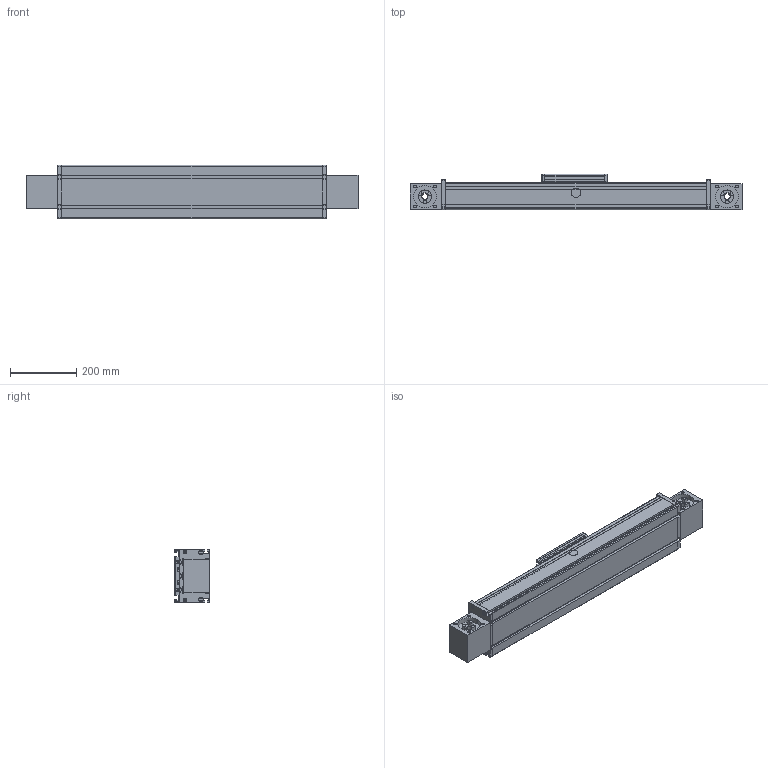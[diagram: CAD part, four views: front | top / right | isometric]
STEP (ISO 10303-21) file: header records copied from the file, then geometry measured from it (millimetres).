
FILE_DESCRIPTION (( 'STEP AP214' ), '1' );
FILE_NAME ('DLZ-160.STEP', '2016-01-14T09:57:25', ( 'admin' ), ( '' ), 'SwSTEP 2.0', 'SolidWorks 2015', '' );
FILE_SCHEMA (( 'AUTOMOTIVE_DESIGN' ));
Length unit declared in the file: millimetre
Products named in the file (6): Kopie von Bahr-DLZ-DLZ-160  1 0  0 0  0 7  940_DLZ Carriage 160^DLZ160 S0 A0_0; Kopie von Bahr-DLZ-DLZ-160  1 0  0 0  0 7  940_DLZ Extrusion 160^DLZ160 S0 A0; Kopie von Bahr-DLZ-DLZ-160  1 0  0 0  0 7  940_DLZ End Plate 160^DLZ160 S0 A0_0; DLZ-160; Kopie von Bahr-DLZ-DLZ-160  1 0  0 0  0 7  940_DLZ End_Block(2)^DLZ160 S0 A0_DLZ-160-A; Kopie von Bahr-DLZ-DLZ-160  1 0  0 0  0 7  940_DLZ End_Block(1)^DLZ160 S0 A0_DLZ-160-B
Assembly tree (6 placements, depth 2):
  DLZ-160
    Kopie von Bahr-DLZ-DLZ-160  1 0  0 0  0 7  940_DLZ End Plate 160^DLZ160 S0 A0_0  x2
    Kopie von Bahr-DLZ-DLZ-160  1 0  0 0  0 7  940_DLZ Extrusion 160^DLZ160 S0 A0
    Kopie von Bahr-DLZ-DLZ-160  1 0  0 0  0 7  940_DLZ Carriage 160^DLZ160 S0 A0_0
    Kopie von Bahr-DLZ-DLZ-160  1 0  0 0  0 7  940_DLZ End_Block(1)^DLZ160 S0 A0_DLZ-160-B
    Kopie von Bahr-DLZ-DLZ-160  1 0  0 0  0 7  940_DLZ End_Block(2)^DLZ160 S0 A0_DLZ-160-A
Bounding box: 1000 x 106 x 160.2 mm (x, y, z)
Volume: 11773313.4 mm3; surface area: 850589.2 mm2
Topology: 10 solids, 10 shells, 818 faces, 2062 edges, 1360 vertices
Faces by surface type: plane 532, cylinder 274, sphere 8, cone 4
Entity records: 19239 total; most frequent: CARTESIAN_POINT 3347, DIRECTION 3279, ORIENTED_EDGE 3154, EDGE_CURVE 1577, VECTOR 1139, LINE 1139, AXIS2_PLACEMENT_3D 1070, VERTEX_POINT 1042
